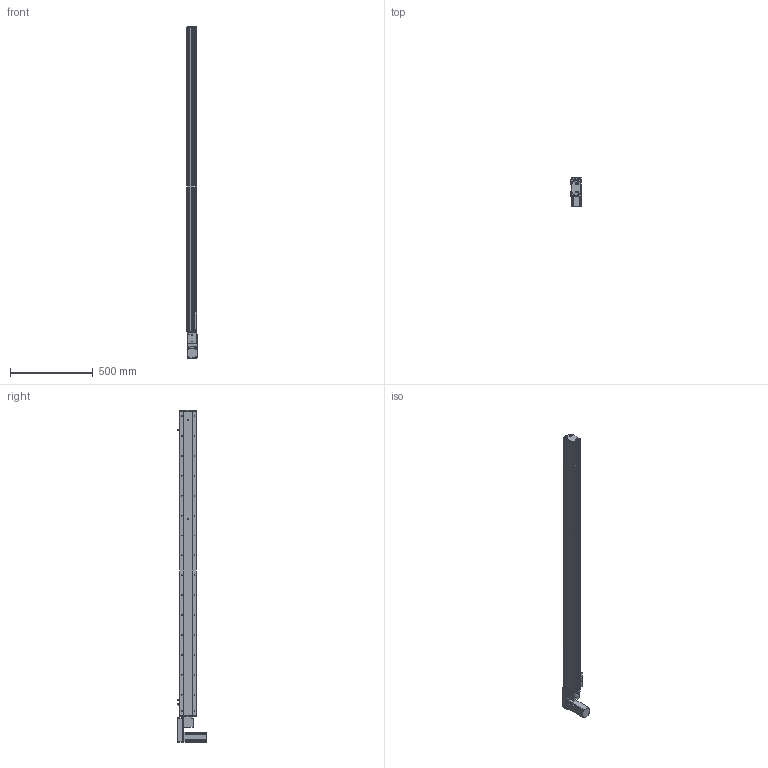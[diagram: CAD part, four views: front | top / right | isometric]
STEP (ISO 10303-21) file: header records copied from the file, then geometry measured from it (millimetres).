
FILE_DESCRIPTION (( 'STEP AP214' ), '1' );
FILE_NAME ('KSD100B-S1650-MLB-CM.STEP', '2019-11-09T06:46:27', ( '微软用户' ), ( '微软中国' ), 'SwSTEP 2.0', 'SolidWorks 2014', '' );
FILE_SCHEMA (( 'AUTOMOTIVE_DESIGN' ));
Length unit declared in the file: millimetre
Products named in the file (12): 悵誘欶奻狟殏; 100宽马达安装板连板上下折丝杆同步带; 台达ECMA－C20604AS伺服电机; U倰嫖萇EEㄜSX672; 覜茼え100遵圉猾敕; 100宽防尘板1650行程-同步带; 100宽马达安装板同步带左; 100宽同步带安装板半封闭; 100宽马达安装板同步带; 100遵傷啣肮祭湍; 100宽底板半封闭同步带1650行程; KSD100B-S1650-MLB-CM
Assembly tree (13 placements, depth 2):
  KSD100B-S1650-MLB-CM
    100宽底板半封闭同步带1650行程
    100遵傷啣肮祭湍
    100宽马达安装板同步带
    100宽同步带安装板半封闭
    100宽马达安装板同步带左
    100宽防尘板1650行程-同步带
    覜茼え100遵圉猾敕
    U倰嫖萇EEㄜSX672  x3
    台达ECMA－C20604AS伺服电机
    100宽马达安装板连板上下折丝杆同步带
    悵誘欶奻狟殏
Bounding box: 61 x 174.7 x 2003 mm (x, y, z)
Volume: 4013239.9 mm3; surface area: 1370157.3 mm2
Topology: 14 solids, 14 shells, 1665 faces, 4724 edges, 2977 vertices
Faces by surface type: cylinder 867, plane 615, cone 183
Entity records: 61105 total; most frequent: CARTESIAN_POINT 13058, DIRECTION 8244, ORIENTED_EDGE 7988, EDGE_CURVE 3994, AXIS2_PLACEMENT_3D 3037, VERTEX_POINT 2601, LINE 2170, VECTOR 2170
